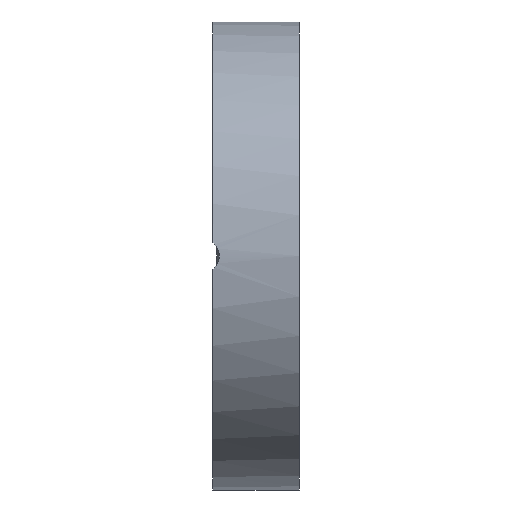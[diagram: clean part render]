
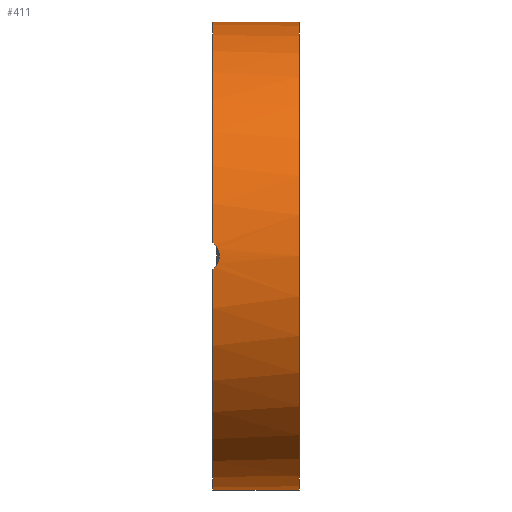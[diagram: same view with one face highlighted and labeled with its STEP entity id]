
A CAD part, left-side view. The second image highlights one B-rep face of the part: STEP entity #411.
In plain terms, the highlighted cylindrical face has radius 35 mm (diameter 70 mm), a partial arc.
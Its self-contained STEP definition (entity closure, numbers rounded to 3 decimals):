
#5 = VECTOR ( 'NONE', #1034, 1000. ) ;
#46 = EDGE_CURVE ( 'NONE', #968, #263, #718, .T. ) ;
#59 = AXIS2_PLACEMENT_3D ( 'NONE', #839, #360, #1031 ) ;
#69 = CARTESIAN_POINT ( 'NONE',  ( -34.943, 13., 2. ) ) ;
#74 = ORIENTED_EDGE ( 'NONE', *, *, #1151, .F. ) ;
#110 = VERTEX_POINT ( 'NONE', #392 ) ;
#113 = DIRECTION ( 'NONE',  ( 0., 1., 0. ) ) ;
#139 = CARTESIAN_POINT ( 'NONE',  ( 0., 13., 0. ) ) ;
#148 = CARTESIAN_POINT ( 'NONE',  ( -34.992, 12.111, -0.76 ) ) ;
#149 = ORIENTED_EDGE ( 'NONE', *, *, #583, .T. ) ;
#170 = CARTESIAN_POINT ( 'NONE',  ( -34.988, 12.177, -0.943 ) ) ;
#202 = VECTOR ( 'NONE', #113, 1000. ) ;
#206 = CARTESIAN_POINT ( 'NONE',  ( 0., 0., 0. ) ) ;
#213 = CARTESIAN_POINT ( 'NONE',  ( 0., 13., 0. ) ) ;
#236 = DIRECTION ( 'NONE',  ( 0., 1., 0. ) ) ;
#254 = CARTESIAN_POINT ( 'NONE',  ( -35., 12., 0.195 ) ) ;
#263 = VERTEX_POINT ( 'NONE', #712 ) ;
#266 = CARTESIAN_POINT ( 'NONE',  ( -34.988, 12.178, 0.947 ) ) ;
#288 = ORIENTED_EDGE ( 'NONE', *, *, #406, .F. ) ;
#305 = ORIENTED_EDGE ( 'NONE', *, *, #490, .F. ) ;
#326 = CARTESIAN_POINT ( 'NONE',  ( 0., 0., -35. ) ) ;
#351 = CARTESIAN_POINT ( 'NONE',  ( -34.977, 12.35, -1.29 ) ) ;
#360 = DIRECTION ( 'NONE',  ( 0., 1., 0. ) ) ;
#392 = CARTESIAN_POINT ( 'NONE',  ( 0., 13., -35. ) ) ;
#406 = EDGE_CURVE ( 'NONE', #110, #1008, #540, .T. ) ;
#411 = ADVANCED_FACE ( 'NONE', ( #612 ), #418, .T. ) ;
#418 = CYLINDRICAL_SURFACE ( 'NONE', #1201, 35. ) ;
#442 = CARTESIAN_POINT ( 'NONE',  ( -34.957, 12.702, -1.748 ) ) ;
#456 = CARTESIAN_POINT ( 'NONE',  ( -34.998, 12.022, 0.386 ) ) ;
#465 = CARTESIAN_POINT ( 'NONE',  ( -34.957, 12.705, 1.75 ) ) ;
#472 = CARTESIAN_POINT ( 'NONE',  ( -34.992, 12.112, 0.764 ) ) ;
#490 = EDGE_CURVE ( 'NONE', #942, #263, #1259, .T. ) ;
#510 = DIRECTION ( 'NONE',  ( 0., 1., 0. ) ) ;
#540 = CIRCLE ( 'NONE', #799, 35. ) ;
#541 = DIRECTION ( 'NONE',  ( 0., 1., 0. ) ) ;
#542 = EDGE_CURVE ( 'NONE', #942, #1008, #825, .T. ) ;
#548 = CARTESIAN_POINT ( 'NONE',  ( -34.943, 13., -2. ) ) ;
#562 = EDGE_LOOP ( 'NONE', ( #74, #149, #1196, #305, #716, #288 ) ) ;
#583 = EDGE_CURVE ( 'NONE', #966, #968, #992, .T. ) ;
#612 = FACE_OUTER_BOUND ( 'NONE', #562, .T. ) ;
#621 = CARTESIAN_POINT ( 'NONE',  ( 0., 0., 35. ) ) ;
#661 = CARTESIAN_POINT ( 'NONE',  ( 0., 0., -35. ) ) ;
#664 = CARTESIAN_POINT ( 'NONE',  ( -34.97, 12.455, -1.451 ) ) ;
#712 = CARTESIAN_POINT ( 'NONE',  ( 0., 13., 35. ) ) ;
#716 = ORIENTED_EDGE ( 'NONE', *, *, #542, .T. ) ;
#718 = LINE ( 'NONE', #621, #202 ) ;
#719 = DIRECTION ( 'NONE',  ( 0., 0., 1. ) ) ;
#724 = AXIS2_PLACEMENT_3D ( 'NONE', #139, #541, #921 ) ;
#799 = AXIS2_PLACEMENT_3D ( 'NONE', #213, #510, #719 ) ;
#825 = B_SPLINE_CURVE_WITH_KNOTS ( 'NONE', 3,
 ( #1233, #831, #465, #1007, #1127, #266, #472, #456, #254, #853, #847, #148, #170, #351, #664, #442, #1037, #548 ),
 .UNSPECIFIED., .F., .F.,
 ( 4, 2, 2, 2, 2, 2, 2, 2, 4 ),
 ( 0., 0.001, 0.001, 0.002, 0.002, 0.003, 0.003, 0.004, 0.005 ),
 .UNSPECIFIED. ) ;
#831 = CARTESIAN_POINT ( 'NONE',  ( -34.95, 12.844, 1.883 ) ) ;
#835 = CARTESIAN_POINT ( 'NONE',  ( 0., 0., 35. ) ) ;
#839 = CARTESIAN_POINT ( 'NONE',  ( 0., 0., 0. ) ) ;
#847 = CARTESIAN_POINT ( 'NONE',  ( -34.998, 12.022, -0.386 ) ) ;
#853 = CARTESIAN_POINT ( 'NONE',  ( -35., 12., -0.191 ) ) ;
#905 = CARTESIAN_POINT ( 'NONE',  ( -34.943, 13., -2. ) ) ;
#921 = DIRECTION ( 'NONE',  ( 0., 0., 1. ) ) ;
#936 = LINE ( 'NONE', #661, #5 ) ;
#942 = VERTEX_POINT ( 'NONE', #69 ) ;
#966 = VERTEX_POINT ( 'NONE', #326 ) ;
#968 = VERTEX_POINT ( 'NONE', #835 ) ;
#992 = CIRCLE ( 'NONE', #59, 35. ) ;
#1007 = CARTESIAN_POINT ( 'NONE',  ( -34.97, 12.458, 1.455 ) ) ;
#1008 = VERTEX_POINT ( 'NONE', #905 ) ;
#1031 = DIRECTION ( 'NONE',  ( 0., 0., 1. ) ) ;
#1034 = DIRECTION ( 'NONE',  ( 0., 1., 0. ) ) ;
#1037 = CARTESIAN_POINT ( 'NONE',  ( -34.95, 12.844, -1.883 ) ) ;
#1127 = CARTESIAN_POINT ( 'NONE',  ( -34.977, 12.35, 1.291 ) ) ;
#1151 = EDGE_CURVE ( 'NONE', #966, #110, #936, .T. ) ;
#1196 = ORIENTED_EDGE ( 'NONE', *, *, #46, .T. ) ;
#1201 = AXIS2_PLACEMENT_3D ( 'NONE', #206, #236, #1205 ) ;
#1205 = DIRECTION ( 'NONE',  ( 0., 0., 1. ) ) ;
#1233 = CARTESIAN_POINT ( 'NONE',  ( -34.943, 13., 2. ) ) ;
#1259 = CIRCLE ( 'NONE', #724, 35. ) ;
